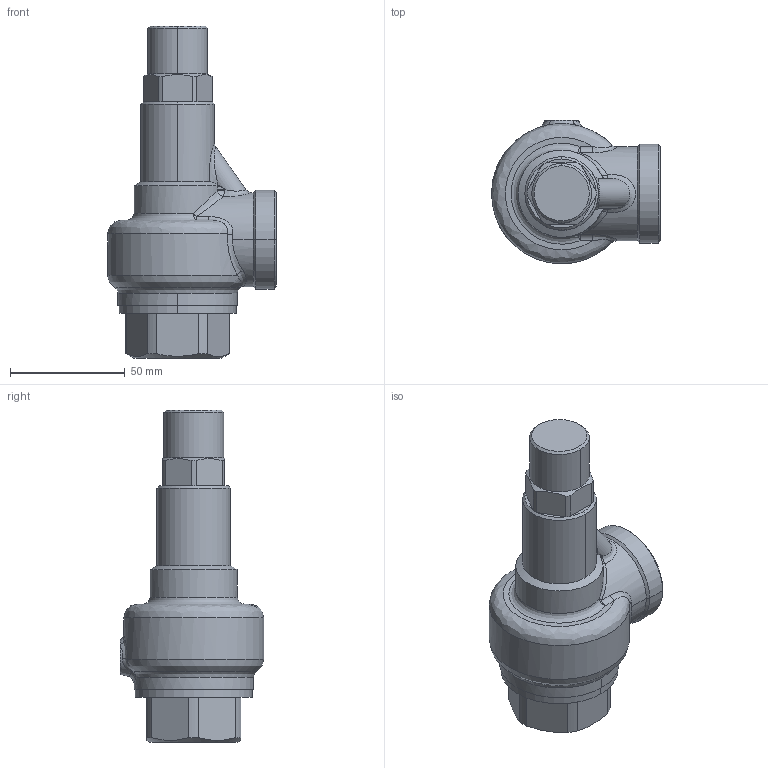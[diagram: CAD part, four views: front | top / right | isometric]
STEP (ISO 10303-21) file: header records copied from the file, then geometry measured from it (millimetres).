
FILE_DESCRIPTION( (''), '2;1');
FILE_NAME ('PC1027.9568.AL-150 25A_12827.stp','2025-07-28T14:04:08',(''),(''),'spGate 19.8.4 (****-****-****-****)','','');
FILE_SCHEMA (('AUTOMOTIVE_DESIGN'));
Length unit declared in the file: millimetre
Products named in the file (2): Assembly; AL-150 25A
Assembly tree (1 placements, depth 2):
  Assembly
    AL-150 25A
Bounding box: 73.5 x 62.49 x 144.5 mm (x, y, z)
Volume: 203082.8 mm3; surface area: 28088.6 mm2
Topology: 1 solids, 1 shells, 116 faces, 278 edges, 164 vertices
Faces by surface type: bspline 46, plane 33, cylinder 29, sphere 8
Entity records: 7692 total; most frequent: CARTESIAN_POINT 3080, ORIENTED_EDGE 548, DIRECTION 442, COLOUR_RGB 391, PRESENTATION_STYLE_ASSIGNMENT 391, STYLED_ITEM 391, EDGE_CURVE 274, DRAUGHTING_PRE_DEFINED_CURVE_FONT 274
